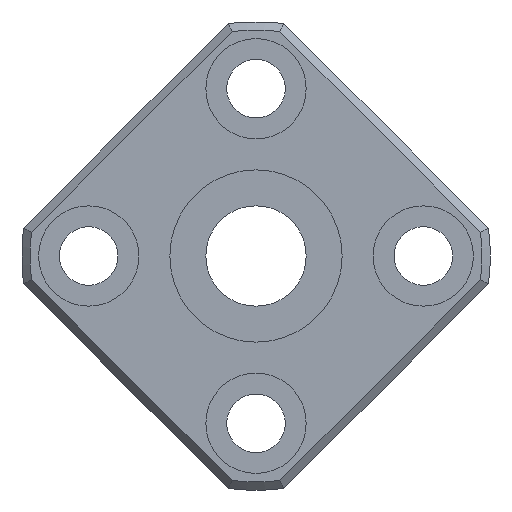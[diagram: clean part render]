
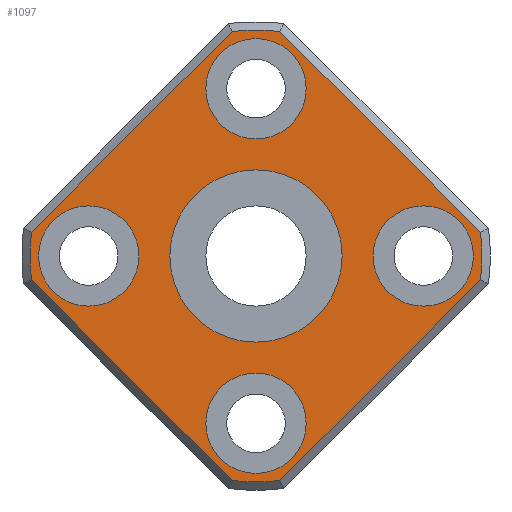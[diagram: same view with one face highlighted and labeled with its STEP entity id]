
A CAD part, left-side view. The second image highlights one B-rep face of the part: STEP entity #1097.
In plain terms, the highlighted planar face has unit normal (-1, 0, 0).
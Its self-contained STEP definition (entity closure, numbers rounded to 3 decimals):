
#673=CARTESIAN_POINT('',(0.0,1.425,-13.425));
#674=VERTEX_POINT('',#673);
#682=CARTESIAN_POINT('',(0.0,13.425,-1.425));
#683=VERTEX_POINT('',#682);
#684=CARTESIAN_POINT('',(0.0,1.425,-13.425));
#685=DIRECTION('',(0.0,0.707,0.707));
#686=VECTOR('',#685,16.971);
#687=LINE('',#684,#686);
#688=EDGE_CURVE('',#674,#683,#687,.T.);
#715=CARTESIAN_POINT('',(0.0,13.425,1.425));
#716=VERTEX_POINT('',#715);
#717=CARTESIAN_POINT('',(0.0,0.0,0.0));
#718=DIRECTION('',(1.0,0.0,0.0));
#719=DIRECTION('',(0.0,0.0,1.0));
#720=AXIS2_PLACEMENT_3D('',#717,#718,#719);
#721=CIRCLE('',#720,13.5);
#722=EDGE_CURVE('',#683,#716,#721,.T.);
#748=CARTESIAN_POINT('',(0.0,1.425,13.425));
#749=VERTEX_POINT('',#748);
#750=CARTESIAN_POINT('',(0.0,13.425,1.425));
#751=DIRECTION('',(0.0,-0.707,0.707));
#752=VECTOR('',#751,16.971);
#753=LINE('',#750,#752);
#754=EDGE_CURVE('',#716,#749,#753,.T.);
#781=CARTESIAN_POINT('',(0.0,-1.425,13.425));
#782=VERTEX_POINT('',#781);
#783=CARTESIAN_POINT('',(0.0,0.0,0.0));
#784=DIRECTION('',(1.0,0.0,0.0));
#785=DIRECTION('',(0.0,0.0,1.0));
#786=AXIS2_PLACEMENT_3D('',#783,#784,#785);
#787=CIRCLE('',#786,13.5);
#788=EDGE_CURVE('',#749,#782,#787,.T.);
#814=CARTESIAN_POINT('',(0.0,-13.425,1.425));
#815=VERTEX_POINT('',#814);
#816=CARTESIAN_POINT('',(0.0,-1.425,13.425));
#817=DIRECTION('',(0.0,-0.707,-0.707));
#818=VECTOR('',#817,16.971);
#819=LINE('',#816,#818);
#820=EDGE_CURVE('',#782,#815,#819,.T.);
#847=CARTESIAN_POINT('',(0.0,-13.425,-1.425));
#848=VERTEX_POINT('',#847);
#849=CARTESIAN_POINT('',(0.0,0.0,0.0));
#850=DIRECTION('',(1.0,0.0,0.0));
#851=DIRECTION('',(0.0,0.0,1.0));
#852=AXIS2_PLACEMENT_3D('',#849,#850,#851);
#853=CIRCLE('',#852,13.5);
#854=EDGE_CURVE('',#815,#848,#853,.T.);
#880=CARTESIAN_POINT('',(0.0,-1.425,-13.425));
#881=VERTEX_POINT('',#880);
#882=CARTESIAN_POINT('',(0.0,-13.425,-1.425));
#883=DIRECTION('',(0.0,0.707,-0.707));
#884=VECTOR('',#883,16.971);
#885=LINE('',#882,#884);
#886=EDGE_CURVE('',#848,#881,#885,.T.);
#911=CARTESIAN_POINT('',(0.0,0.0,0.0));
#912=DIRECTION('',(1.0,0.0,0.0));
#913=DIRECTION('',(0.0,0.0,-1.0));
#914=AXIS2_PLACEMENT_3D('',#911,#912,#913);
#915=CIRCLE('',#914,13.5);
#916=EDGE_CURVE('',#881,#674,#915,.T.);
#1027=CARTESIAN_POINT('',(0.0,0.0,5.575));
#1028=DIRECTION('',(-1.0,0.0,0.0));
#1029=DIRECTION('',(0.0,0.0,1.0));
#1030=AXIS2_PLACEMENT_3D('',#1027,#1028,#1029);
#1031=PLANE('',#1030);
#1032=ORIENTED_EDGE('',*,*,#688,.F.);
#1033=ORIENTED_EDGE('',*,*,#916,.F.);
#1034=ORIENTED_EDGE('',*,*,#886,.F.);
#1035=ORIENTED_EDGE('',*,*,#854,.F.);
#1036=ORIENTED_EDGE('',*,*,#820,.F.);
#1037=ORIENTED_EDGE('',*,*,#788,.F.);
#1038=ORIENTED_EDGE('',*,*,#754,.F.);
#1039=ORIENTED_EDGE('',*,*,#722,.F.);
#1040=EDGE_LOOP('',(#1032,#1033,#1034,#1035,#1036,#1037,#1038,#1039));
#1041=FACE_OUTER_BOUND('',#1040,.T.);
#1042=CARTESIAN_POINT('',(0.0,0.0,5.15));
#1043=VERTEX_POINT('',#1042);
#1044=CARTESIAN_POINT('',(0.0,0.0,0.0));
#1045=DIRECTION('',(-1.0,0.0,0.0));
#1046=DIRECTION('',(0.0,0.0,1.0));
#1047=AXIS2_PLACEMENT_3D('',#1044,#1045,#1046);
#1048=CIRCLE('',#1047,5.15);
#1049=EDGE_CURVE('',#1043,#1043,#1048,.T.);
#1050=ORIENTED_EDGE('',*,*,#1049,.F.);
#1051=EDGE_LOOP('',(#1050));
#1052=FACE_BOUND('',#1051,.T.);
#1053=CARTESIAN_POINT('',(0.0,-7.,0.0));
#1054=VERTEX_POINT('',#1053);
#1055=CARTESIAN_POINT('',(0.0,-10.0,0.0));
#1056=DIRECTION('',(1.0,0.0,0.0));
#1057=DIRECTION('',(0.0,1.0,0.0));
#1058=AXIS2_PLACEMENT_3D('',#1055,#1056,#1057);
#1059=CIRCLE('',#1058,3.);
#1060=EDGE_CURVE('',#1054,#1054,#1059,.T.);
#1061=ORIENTED_EDGE('',*,*,#1060,.T.);
#1062=EDGE_LOOP('',(#1061));
#1063=FACE_BOUND('',#1062,.T.);
#1064=CARTESIAN_POINT('',(0.0,13.0,0.0));
#1065=VERTEX_POINT('',#1064);
#1066=CARTESIAN_POINT('',(0.0,10.0,0.0));
#1067=DIRECTION('',(1.0,0.0,0.0));
#1068=DIRECTION('',(0.0,1.0,0.0));
#1069=AXIS2_PLACEMENT_3D('',#1066,#1067,#1068);
#1070=CIRCLE('',#1069,3.);
#1071=EDGE_CURVE('',#1065,#1065,#1070,.T.);
#1072=ORIENTED_EDGE('',*,*,#1071,.T.);
#1073=EDGE_LOOP('',(#1072));
#1074=FACE_BOUND('',#1073,.T.);
#1075=CARTESIAN_POINT('',(0.0,3.,10.0));
#1076=VERTEX_POINT('',#1075);
#1077=CARTESIAN_POINT('',(0.0,0.0,10.0));
#1078=DIRECTION('',(1.0,0.0,0.0));
#1079=DIRECTION('',(0.0,1.0,0.0));
#1080=AXIS2_PLACEMENT_3D('',#1077,#1078,#1079);
#1081=CIRCLE('',#1080,3.);
#1082=EDGE_CURVE('',#1076,#1076,#1081,.T.);
#1083=ORIENTED_EDGE('',*,*,#1082,.T.);
#1084=EDGE_LOOP('',(#1083));
#1085=FACE_BOUND('',#1084,.T.);
#1086=CARTESIAN_POINT('',(0.0,3.,-10.0));
#1087=VERTEX_POINT('',#1086);
#1088=CARTESIAN_POINT('',(0.0,0.0,-10.0));
#1089=DIRECTION('',(1.0,0.0,0.0));
#1090=DIRECTION('',(0.0,1.0,0.0));
#1091=AXIS2_PLACEMENT_3D('',#1088,#1089,#1090);
#1092=CIRCLE('',#1091,3.);
#1093=EDGE_CURVE('',#1087,#1087,#1092,.T.);
#1094=ORIENTED_EDGE('',*,*,#1093,.T.);
#1095=EDGE_LOOP('',(#1094));
#1096=FACE_BOUND('',#1095,.T.);
#1097=ADVANCED_FACE('',(#1041,#1052,#1063,#1074,#1085,#1096),#1031,.T.);
